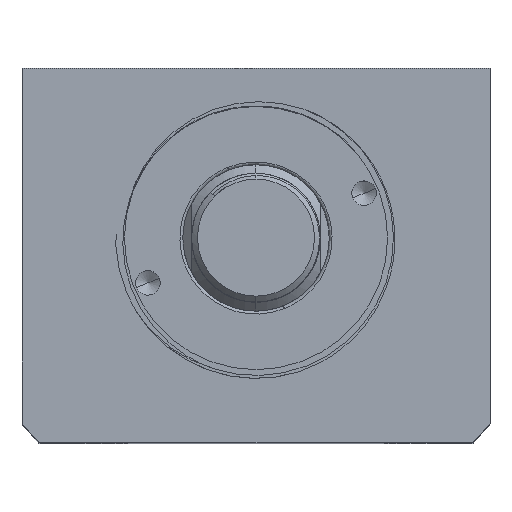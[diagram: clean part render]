
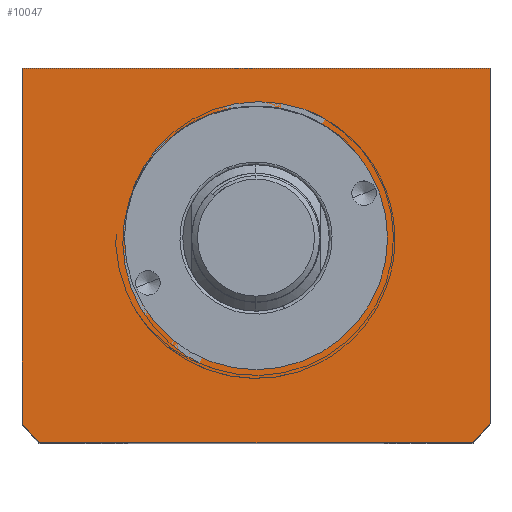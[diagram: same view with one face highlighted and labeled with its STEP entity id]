
A CAD part, top view. The second image highlights one B-rep face of the part: STEP entity #10047.
In plain terms, the highlighted planar face has unit normal (0, 0, 1).
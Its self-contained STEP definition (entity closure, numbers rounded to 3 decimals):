
#28 = EDGE_CURVE ( 'NONE', #15523, #10448, #5334, .T. ) ;
#33 = CIRCLE ( 'NONE', #16933, 51. ) ;
#333 = VERTEX_POINT ( 'NONE', #3247 ) ;
#608 = DIRECTION ( 'NONE',  ( 1., 0., 0. ) ) ;
#805 = AXIS2_PLACEMENT_3D ( 'NONE', #9304, #1355, #10618 ) ;
#1190 = VERTEX_POINT ( 'NONE', #15717 ) ;
#1237 = AXIS2_PLACEMENT_3D ( 'NONE', #16495, #8552, #608 ) ;
#1276 = EDGE_CURVE ( 'NONE', #2370, #333, #7193, .T. ) ;
#1355 = DIRECTION ( 'NONE',  ( 0., 0., 1. ) ) ;
#1419 = CARTESIAN_POINT ( 'NONE',  ( 40., -72.145, 80. ) ) ;
#1440 = VERTEX_POINT ( 'NONE', #5068 ) ;
#1740 = ORIENTED_EDGE ( 'NONE', *, *, #11823, .T. ) ;
#1764 = CIRCLE ( 'NONE', #2007, 51. ) ;
#1812 = VECTOR ( 'NONE', #11788, 1000. ) ;
#1833 = CARTESIAN_POINT ( 'NONE',  ( 0., -40.507, 80. ) ) ;
#2007 = AXIS2_PLACEMENT_3D ( 'NONE', #3630, #12914, #4960 ) ;
#2168 = ORIENTED_EDGE ( 'NONE', *, *, #28, .T. ) ;
#2370 = VERTEX_POINT ( 'NONE', #6692 ) ;
#3164 = DIRECTION ( 'NONE',  ( 1., 0., 0. ) ) ;
#3247 = CARTESIAN_POINT ( 'NONE',  ( -22.5, -40.507, 80. ) ) ;
#3630 = CARTESIAN_POINT ( 'NONE',  ( 0., -40.507, 80. ) ) ;
#3919 = EDGE_CURVE ( 'NONE', #10448, #4871, #33, .T. ) ;
#4217 = LINE ( 'NONE', #14901, #13948 ) ;
#4677 = CARTESIAN_POINT ( 'NONE',  ( -37.094, -75.507, 80. ) ) ;
#4871 = VERTEX_POINT ( 'NONE', #1419 ) ;
#4960 = DIRECTION ( 'NONE',  ( 1., 0., 0. ) ) ;
#5068 = CARTESIAN_POINT ( 'NONE',  ( -40., -11.507, 80. ) ) ;
#5323 = DIRECTION ( 'NONE',  ( -1., 0., 0. ) ) ;
#5334 = LINE ( 'NONE', #17069, #1812 ) ;
#5491 = EDGE_CURVE ( 'NONE', #4871, #16873, #11629, .T. ) ;
#5621 = ORIENTED_EDGE ( 'NONE', *, *, #13383, .F. ) ;
#5708 = FACE_OUTER_BOUND ( 'NONE', #11077, .T. ) ;
#6333 = ORIENTED_EDGE ( 'NONE', *, *, #1276, .F. ) ;
#6692 = CARTESIAN_POINT ( 'NONE',  ( 22.5, -40.507, 80. ) ) ;
#7193 = CIRCLE ( 'NONE', #805, 22.5 ) ;
#7206 = ORIENTED_EDGE ( 'NONE', *, *, #5491, .T. ) ;
#7424 = ORIENTED_EDGE ( 'NONE', *, *, #3919, .T. ) ;
#8105 = DIRECTION ( 'NONE',  ( 1., 0., 0. ) ) ;
#8116 = VECTOR ( 'NONE', #8973, 1000. ) ;
#8151 = EDGE_CURVE ( 'NONE', #1190, #15523, #1764, .T. ) ;
#8552 = DIRECTION ( 'NONE',  ( 0., 0., 1. ) ) ;
#8795 = VECTOR ( 'NONE', #5323, 1000. ) ;
#8973 = DIRECTION ( 'NONE',  ( 0., 1., 0. ) ) ;
#9209 = LINE ( 'NONE', #14583, #8795 ) ;
#9225 = FACE_BOUND ( 'NONE', #11786, .T. ) ;
#9304 = CARTESIAN_POINT ( 'NONE',  ( 0., -40.507, 80. ) ) ;
#10047 = ADVANCED_FACE ( 'NONE', ( #9225, #5708 ), #14705, .T. ) ;
#10191 = CARTESIAN_POINT ( 'NONE',  ( 40., -11.507, 80. ) ) ;
#10448 = VERTEX_POINT ( 'NONE', #13544 ) ;
#10618 = DIRECTION ( 'NONE',  ( 1., 0., 0. ) ) ;
#10707 = CARTESIAN_POINT ( 'NONE',  ( 0., 0., 80. ) ) ;
#10990 = AXIS2_PLACEMENT_3D ( 'NONE', #10707, #16030, #8105 ) ;
#11077 = EDGE_LOOP ( 'NONE', ( #1740, #13459, #2168, #7424, #7206, #13685 ) ) ;
#11105 = DIRECTION ( 'NONE',  ( 0., 0., 1. ) ) ;
#11629 = LINE ( 'NONE', #10191, #8116 ) ;
#11786 = EDGE_LOOP ( 'NONE', ( #6333, #5621 ) ) ;
#11788 = DIRECTION ( 'NONE',  ( 1., 0., 0. ) ) ;
#11823 = EDGE_CURVE ( 'NONE', #1440, #1190, #4217, .T. ) ;
#12914 = DIRECTION ( 'NONE',  ( 0., 0., 1. ) ) ;
#13383 = EDGE_CURVE ( 'NONE', #333, #2370, #14206, .T. ) ;
#13459 = ORIENTED_EDGE ( 'NONE', *, *, #8151, .T. ) ;
#13544 = CARTESIAN_POINT ( 'NONE',  ( 37.094, -75.507, 80. ) ) ;
#13685 = ORIENTED_EDGE ( 'NONE', *, *, #15144, .T. ) ;
#13687 = CARTESIAN_POINT ( 'NONE',  ( 40., -11.507, 80. ) ) ;
#13948 = VECTOR ( 'NONE', #16240, 1000. ) ;
#14206 = CIRCLE ( 'NONE', #1237, 22.5 ) ;
#14583 = CARTESIAN_POINT ( 'NONE',  ( -40., -11.507, 80. ) ) ;
#14705 = PLANE ( 'NONE',  #10990 ) ;
#14901 = CARTESIAN_POINT ( 'NONE',  ( -40., -11.507, 80. ) ) ;
#15144 = EDGE_CURVE ( 'NONE', #16873, #1440, #9209, .T. ) ;
#15523 = VERTEX_POINT ( 'NONE', #4677 ) ;
#15717 = CARTESIAN_POINT ( 'NONE',  ( -40., -72.145, 80. ) ) ;
#16030 = DIRECTION ( 'NONE',  ( 0., 0., 1. ) ) ;
#16240 = DIRECTION ( 'NONE',  ( 0., -1., 0. ) ) ;
#16495 = CARTESIAN_POINT ( 'NONE',  ( 0., -40.507, 80. ) ) ;
#16873 = VERTEX_POINT ( 'NONE', #13687 ) ;
#16933 = AXIS2_PLACEMENT_3D ( 'NONE', #1833, #11105, #3164 ) ;
#17069 = CARTESIAN_POINT ( 'NONE',  ( -40., -75.507, 80. ) ) ;
